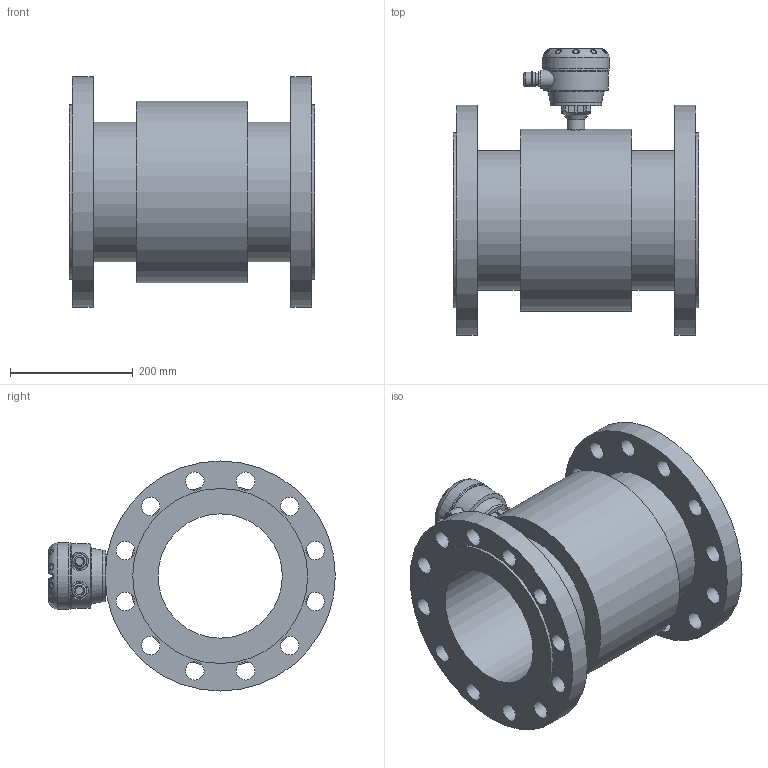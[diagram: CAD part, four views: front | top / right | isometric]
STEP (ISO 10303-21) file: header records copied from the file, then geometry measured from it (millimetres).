
FILE_DESCRIPTION (( 'STEP AP203' ), '1' );
FILE_NAME ('KROHNE_OPTIFLUX_2-4000W_DIN2635_DN200_PN40.STEP', '2011-04-26T11:26:28', ( '' ), ( '' ), 'SwSTEP 2.0', 'SolidWorks 2010', '' );
FILE_SCHEMA (( 'CONFIG_CONTROL_DESIGN' ));
Length unit declared in the file: millimetre
Products named in the file (1): KROHNE_OPTIFLUX_2-4000W_DIN2635_DN200_PN40
Bounding box: 400 x 466.99 x 375 mm (x, y, z)
Volume: 13706325.4 mm3; surface area: 1111383.5 mm2
Topology: 14 solids, 14 shells, 351 faces, 869 edges, 568 vertices
Faces by surface type: plane 158, cylinder 101, bspline 53, torus 18, sphere 13, cone 8
Full cylindrical faces by diameter (mm): 4 x4, 6.6 x8, 13 x2, 20 x2, 23.5 x4, 29 x1, 30 x26, 84 x2, 109 x1, 202.5 x1, 227.5 x2, 285 x2, 296 x1, 375 x2
Entity records: 14264 total; most frequent: CARTESIAN_POINT 6539, ORIENTED_EDGE 1494, DIRECTION 1461, EDGE_CURVE 747, AXIS2_PLACEMENT_3D 549, EDGE_LOOP 534, VERTEX_POINT 531, FACE_OUTER_BOUND 426
